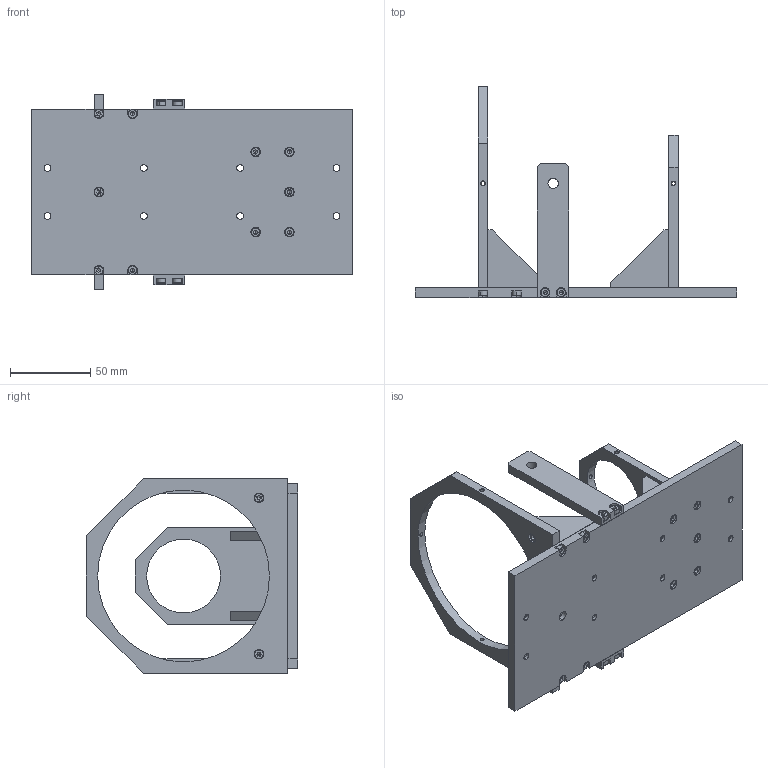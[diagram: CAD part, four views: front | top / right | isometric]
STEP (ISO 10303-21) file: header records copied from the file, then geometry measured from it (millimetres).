
FILE_DESCRIPTION(('STEP AP214'),'1');
FILE_NAME('AD-VCL100_DRAWING_3D.step','2025-03-18T02:54:56',(' '),(' '),'Spatial InterOp 3D',' ',' ');
FILE_SCHEMA(('AUTOMOTIVE_DESIGN { 1 0 10303 214 1 1 1 1 }'));
Length unit declared in the file: millimetre
Products named in the file (7): BASE; FRAME HOLDER L; SIDE HOLDER; FRAME HOLDER R; 1231; socket head cap screw_iso_ISO 4762 M3 x 5 - 5N
Assembly tree (27 placements, depth 2):
  (unnamed)
    BASE
    FRAME HOLDER L
    SIDE HOLDER  x2
    FRAME HOLDER R
    1231  x4
    socket head cap screw_iso_ISO 4762 M3 x 5 - 5N  x18
Bounding box: 200 x 131.5 x 121 mm (x, y, z)
Volume: 209820.8 mm3; surface area: 93060.8 mm2
Topology: 27 solids, 27 shells, 798 faces, 1828 edges, 1080 vertices
Faces by surface type: plane 378, cylinder 228, cone 120, torus 72
Entity records: 10827 total; most frequent: CARTESIAN_POINT 1598, DIRECTION 1535, ORIENTED_EDGE 1302, EDGE_CURVE 651, AXIS2_PLACEMENT_3D 596, VERTEX_POINT 419, EDGE_LOOP 366, LINE 343
